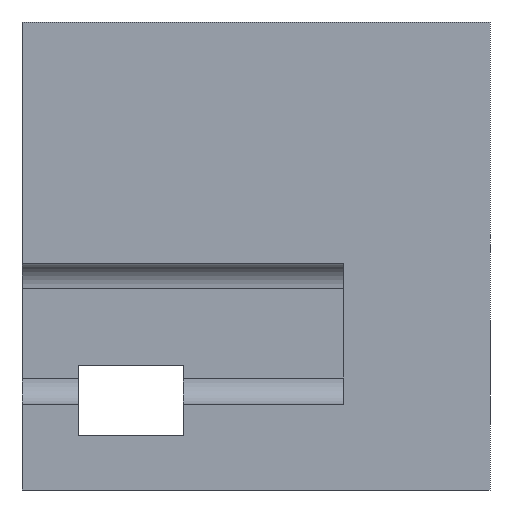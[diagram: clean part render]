
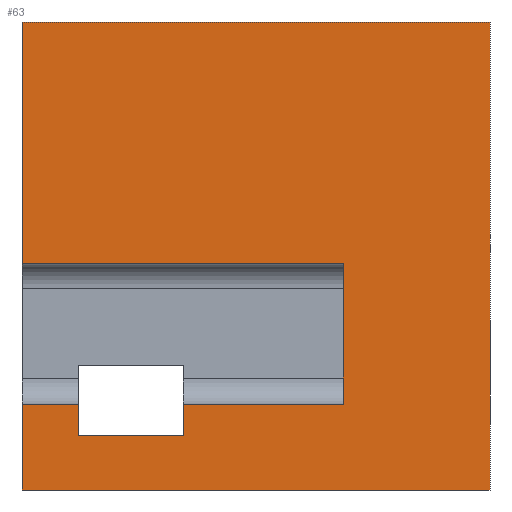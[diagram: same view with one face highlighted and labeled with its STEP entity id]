
A CAD part, front view. The second image highlights one B-rep face of the part: STEP entity #63.
In plain terms, the highlighted planar face has unit normal (0, -1, 0).
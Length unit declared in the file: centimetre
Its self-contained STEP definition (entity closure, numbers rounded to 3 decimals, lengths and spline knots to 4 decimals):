
#63 = ADVANCED_FACE ( 'NONE', ( #1000 ), #1114, .F. ) ;
#67 = VECTOR ( 'NONE', #1519, 100. ) ;
#74 = CARTESIAN_POINT ( 'NONE',  ( 686.9448, 0., 183.4495 ) ) ;
#76 = LINE ( 'NONE', #93, #701 ) ;
#80 = CARTESIAN_POINT ( 'NONE',  ( 120.3587, 0., 115.7758 ) ) ;
#93 = CARTESIAN_POINT ( 'NONE',  ( 1000., 0., 1000. ) ) ;
#206 = EDGE_CURVE ( 'NONE', #1552, #308, #473, .T. ) ;
#287 = CARTESIAN_POINT ( 'NONE',  ( 0., 0., 1000. ) ) ;
#302 = CARTESIAN_POINT ( 'NONE',  ( 686.9448, 0., 484.2332 ) ) ;
#308 = VERTEX_POINT ( 'NONE', #1488 ) ;
#318 = LINE ( 'NONE', #875, #1536 ) ;
#331 = CARTESIAN_POINT ( 'NONE',  ( 686.9448, 0., 183.4495 ) ) ;
#387 = CARTESIAN_POINT ( 'NONE',  ( 344.9952, 0., 183.4495 ) ) ;
#395 = VECTOR ( 'NONE', #427, 100. ) ;
#403 = ORIENTED_EDGE ( 'NONE', *, *, #457, .T. ) ;
#409 = CARTESIAN_POINT ( 'NONE',  ( 344.9952, 0., 115.7758 ) ) ;
#427 = DIRECTION ( 'NONE',  ( 0., 0., -1. ) ) ;
#446 = VECTOR ( 'NONE', #1781, 100. ) ;
#457 = EDGE_CURVE ( 'NONE', #1370, #1574, #545, .T. ) ;
#473 = LINE ( 'NONE', #1046, #1245 ) ;
#486 = ORIENTED_EDGE ( 'NONE', *, *, #1497, .F. ) ;
#491 = EDGE_CURVE ( 'NONE', #1272, #1608, #1818, .T. ) ;
#521 = EDGE_LOOP ( 'NONE', ( #1617, #1688, #684, #1025, #856, #1018, #1336, #1765, #1651, #486, #677, #403 ) ) ;
#543 = CARTESIAN_POINT ( 'NONE',  ( 0., 0., 1000. ) ) ;
#545 = LINE ( 'NONE', #409, #395 ) ;
#581 = DIRECTION ( 'NONE',  ( 0., 0., 1. ) ) ;
#617 = VECTOR ( 'NONE', #1455, 100. ) ;
#654 = DIRECTION ( 'NONE',  ( 0., 0., -1. ) ) ;
#662 = VERTEX_POINT ( 'NONE', #74 ) ;
#677 = ORIENTED_EDGE ( 'NONE', *, *, #1591, .T. ) ;
#684 = ORIENTED_EDGE ( 'NONE', *, *, #1243, .T. ) ;
#698 = CARTESIAN_POINT ( 'NONE',  ( 686.9448, 0., 484.2332 ) ) ;
#701 = VECTOR ( 'NONE', #654, 100. ) ;
#704 = VERTEX_POINT ( 'NONE', #1189 ) ;
#764 = VERTEX_POINT ( 'NONE', #1501 ) ;
#816 = LINE ( 'NONE', #1496, #67 ) ;
#856 = ORIENTED_EDGE ( 'NONE', *, *, #206, .T. ) ;
#859 = VECTOR ( 'NONE', #966, 100. ) ;
#867 = EDGE_CURVE ( 'NONE', #704, #1552, #1074, .T. ) ;
#871 = DIRECTION ( 'NONE',  ( 1., 0., 0. ) ) ;
#875 = CARTESIAN_POINT ( 'NONE',  ( 686.9448, 0., 183.4495 ) ) ;
#877 = LINE ( 'NONE', #1174, #1111 ) ;
#878 = EDGE_CURVE ( 'NONE', #1733, #1272, #816, .T. ) ;
#880 = EDGE_CURVE ( 'NONE', #1574, #1308, #1655, .T. ) ;
#884 = LINE ( 'NONE', #1310, #971 ) ;
#905 = VERTEX_POINT ( 'NONE', #952 ) ;
#952 = CARTESIAN_POINT ( 'NONE',  ( 120.3587, 0., 183.4495 ) ) ;
#966 = DIRECTION ( 'NONE',  ( 1., 0., 0. ) ) ;
#971 = VECTOR ( 'NONE', #1451, 100. ) ;
#1000 = FACE_OUTER_BOUND ( 'NONE', #521, .T. ) ;
#1017 = DIRECTION ( 'NONE',  ( 0., 0., 1. ) ) ;
#1018 = ORIENTED_EDGE ( 'NONE', *, *, #1736, .F. ) ;
#1025 = ORIENTED_EDGE ( 'NONE', *, *, #867, .T. ) ;
#1034 = LINE ( 'NONE', #331, #617 ) ;
#1042 = CARTESIAN_POINT ( 'NONE',  ( 0., 0., 484.2332 ) ) ;
#1046 = CARTESIAN_POINT ( 'NONE',  ( 0., 0., 0. ) ) ;
#1054 = DIRECTION ( 'NONE',  ( 0., 0., 1. ) ) ;
#1062 = CARTESIAN_POINT ( 'NONE',  ( 120.3587, 0., 115.7758 ) ) ;
#1074 = LINE ( 'NONE', #543, #446 ) ;
#1092 = VECTOR ( 'NONE', #1221, 100. ) ;
#1111 = VECTOR ( 'NONE', #1017, 100. ) ;
#1114 = PLANE ( 'NONE',  #1301 ) ;
#1174 = CARTESIAN_POINT ( 'NONE',  ( 686.9448, 0., 1000. ) ) ;
#1189 = CARTESIAN_POINT ( 'NONE',  ( 0., 0., 183.4495 ) ) ;
#1204 = EDGE_CURVE ( 'NONE', #1733, #764, #884, .T. ) ;
#1221 = DIRECTION ( 'NONE',  ( -1., 0., 0. ) ) ;
#1243 = EDGE_CURVE ( 'NONE', #905, #704, #318, .T. ) ;
#1245 = VECTOR ( 'NONE', #871, 100. ) ;
#1272 = VERTEX_POINT ( 'NONE', #1042 ) ;
#1301 = AXIS2_PLACEMENT_3D ( 'NONE', #287, #1397, #581 ) ;
#1308 = VERTEX_POINT ( 'NONE', #80 ) ;
#1310 = CARTESIAN_POINT ( 'NONE',  ( 0., 0., 1000. ) ) ;
#1316 = VECTOR ( 'NONE', #1054, 100. ) ;
#1336 = ORIENTED_EDGE ( 'NONE', *, *, #1204, .F. ) ;
#1370 = VERTEX_POINT ( 'NONE', #387 ) ;
#1397 = DIRECTION ( 'NONE',  ( 0., 1., 0. ) ) ;
#1451 = DIRECTION ( 'NONE',  ( 1., 0., 0. ) ) ;
#1455 = DIRECTION ( 'NONE',  ( -1., 0., 0. ) ) ;
#1488 = CARTESIAN_POINT ( 'NONE',  ( 1000., 0., 0. ) ) ;
#1494 = CARTESIAN_POINT ( 'NONE',  ( 0., 0., 1000. ) ) ;
#1496 = CARTESIAN_POINT ( 'NONE',  ( 0., 0., 1000. ) ) ;
#1497 = EDGE_CURVE ( 'NONE', #662, #1608, #877, .T. ) ;
#1501 = CARTESIAN_POINT ( 'NONE',  ( 1000., 0., 1000. ) ) ;
#1512 = CARTESIAN_POINT ( 'NONE',  ( 120.3587, 0., 115.7758 ) ) ;
#1519 = DIRECTION ( 'NONE',  ( 0., 0., -1. ) ) ;
#1536 = VECTOR ( 'NONE', #1597, 100. ) ;
#1552 = VERTEX_POINT ( 'NONE', #1697 ) ;
#1560 = CARTESIAN_POINT ( 'NONE',  ( 344.9952, 0., 115.7758 ) ) ;
#1574 = VERTEX_POINT ( 'NONE', #1560 ) ;
#1591 = EDGE_CURVE ( 'NONE', #662, #1370, #1034, .T. ) ;
#1597 = DIRECTION ( 'NONE',  ( -1., 0., 0. ) ) ;
#1608 = VERTEX_POINT ( 'NONE', #302 ) ;
#1617 = ORIENTED_EDGE ( 'NONE', *, *, #880, .T. ) ;
#1651 = ORIENTED_EDGE ( 'NONE', *, *, #491, .T. ) ;
#1655 = LINE ( 'NONE', #1512, #1092 ) ;
#1672 = EDGE_CURVE ( 'NONE', #1308, #905, #1771, .T. ) ;
#1688 = ORIENTED_EDGE ( 'NONE', *, *, #1672, .T. ) ;
#1697 = CARTESIAN_POINT ( 'NONE',  ( 0., 0., 0. ) ) ;
#1733 = VERTEX_POINT ( 'NONE', #1494 ) ;
#1736 = EDGE_CURVE ( 'NONE', #764, #308, #76, .T. ) ;
#1765 = ORIENTED_EDGE ( 'NONE', *, *, #878, .T. ) ;
#1771 = LINE ( 'NONE', #1062, #1316 ) ;
#1781 = DIRECTION ( 'NONE',  ( 0., 0., -1. ) ) ;
#1818 = LINE ( 'NONE', #698, #859 ) ;
